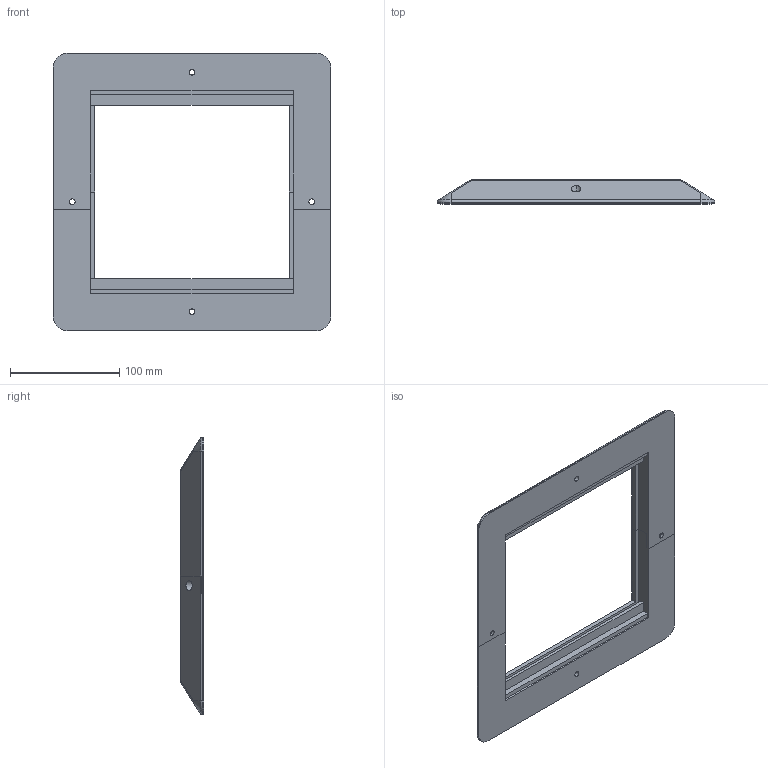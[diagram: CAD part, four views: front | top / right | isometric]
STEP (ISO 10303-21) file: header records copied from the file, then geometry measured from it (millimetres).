
FILE_DESCRIPTION (( 'STEP AP203' ), '1' );
FILE_NAME ('dfb66s.STEP', '2009-02-23T13:58:28', ( 'Hoffman User' ), ( 'Hoffman Enclosures' ), 'SwSTEP 2.0', 'SolidWorks 2007', '' );
FILE_SCHEMA (( 'CONFIG_CONTROL_DESIGN' ));
Length unit declared in the file: inch
Products named in the file (3): dfb66s; DFB66S_brush_bot; DFB66S_brush_top
Assembly tree (2 placements, depth 2):
  dfb66s
    DFB66S_brush_bot
    DFB66S_brush_top
Bounding box: 254 x 21.59 x 254 mm (x, y, z)
Volume: 438865.9 mm3; surface area: 105071.5 mm2
Topology: 2 solids, 2 shells, 120 faces, 308 edges, 192 vertices
Faces by surface type: plane 68, cylinder 40, cone 4, torus 4, sphere 4
Entity records: 3923 total; most frequent: CARTESIAN_POINT 673, DIRECTION 618, ORIENTED_EDGE 608, EDGE_CURVE 304, VECTOR 216, LINE 216, AXIS2_PLACEMENT_3D 201, VERTEX_POINT 192
